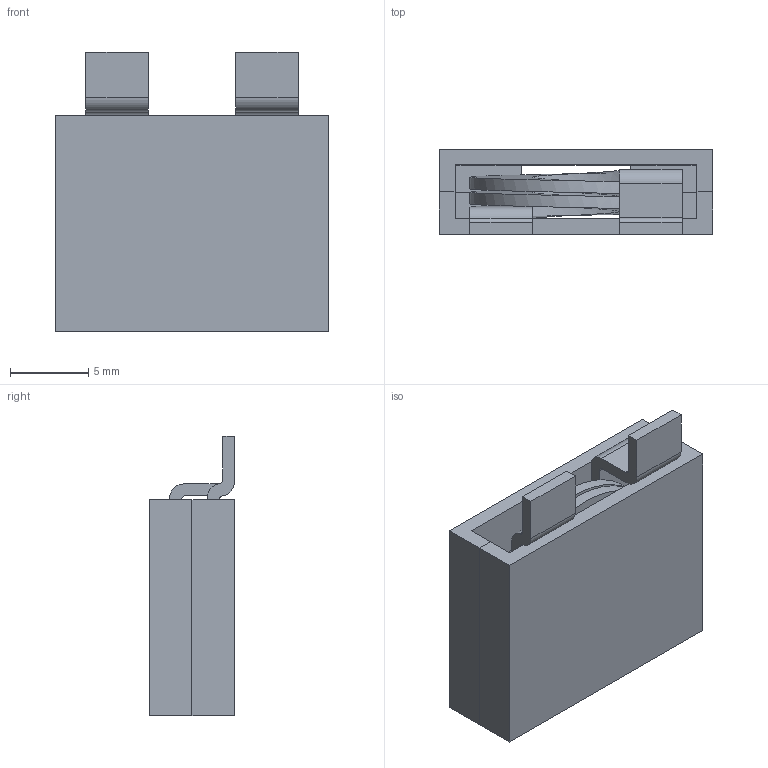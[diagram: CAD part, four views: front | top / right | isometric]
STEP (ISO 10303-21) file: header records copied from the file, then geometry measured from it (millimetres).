
FILE_DESCRIPTION (( 'STEP AP214' ), '1' );
FILE_NAME ('CWS-5293A.STEP', '2020-07-25T20:31:53', ( '' ), ( '' ), 'SwSTEP 2.0', 'SolidWorks 2015', '' );
FILE_SCHEMA (( 'AUTOMOTIVE_DESIGN' ));
Length unit declared in the file: inch
Products named in the file (1): CWS-5293A
Bounding box: 17.5 x 5.44 x 17.9 mm (x, y, z)
Surface area: 2041.3 mm2 (no closed solid volume)
Topology: 0 solids, 3 shells, 45 faces, 142 edges, 96 vertices
Faces by surface type: plane 30, cylinder 13, bspline 2
Entity records: 2432 total; most frequent: CARTESIAN_POINT 612, ORIENTED_EDGE 240, DIRECTION 240, EDGE_CURVE 142, VECTOR 104, LINE 104, VERTEX_POINT 96, AXIS2_PLACEMENT_3D 68
